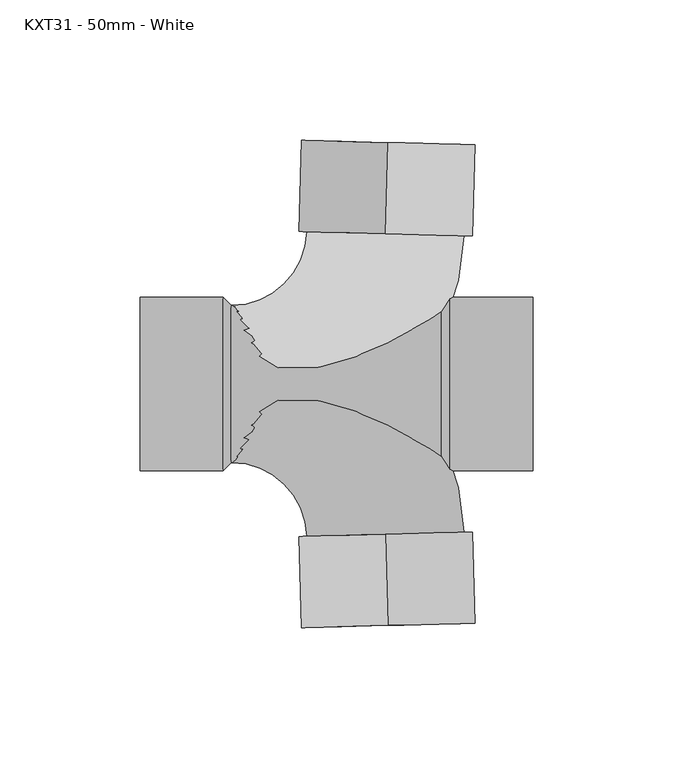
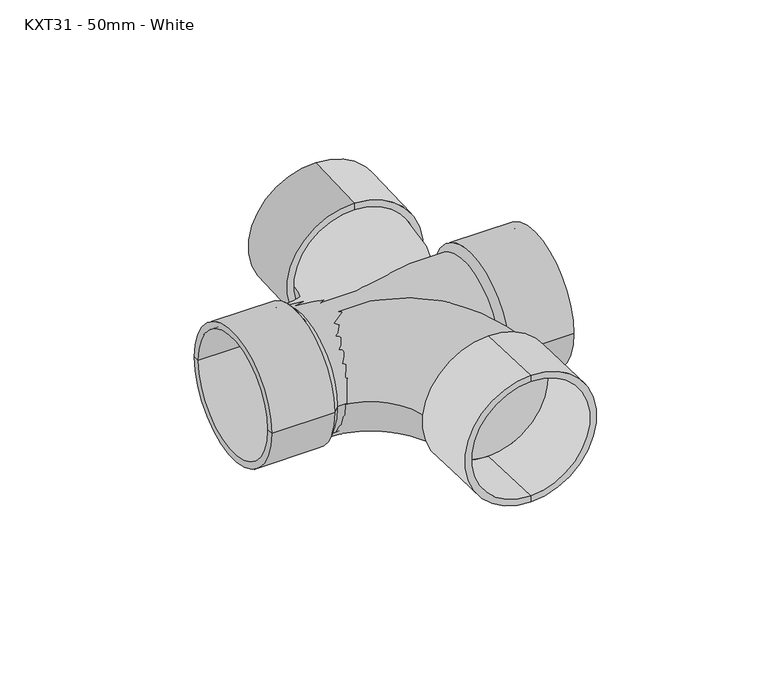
"""IFC4 building model written with IfcOpenShell, lengths in millimetres: pipe fitting geometry, MarleyPlumbingAndDrainage_PipeFitting_CrossTee88.5 : KXT31 - 50mm - White."""

from ifc_helpers import new_model, si_unit, point, frame, origin, place, context, project, spatial, polyline, circle_curve, ellipse_curve, trimmed, source, transform, mapped, element, save
from ifc_brep_helpers import plane_surface, cylinder_surface, revolved_surface, advanced_brep


def kxt31_50mm_white_24e1eb4b(model_context):
    return source(origin(), model_context, "Body", "AdvancedBrep", [
        advanced_brep(
        [(0.6864877, 86.0491309, -28.0), (0.6864877, 86.0491309, 28.0), (0.6864877, 86.0491309, 31.0), (0.6864877, 86.0491309, -31.0), (-0.1642631, 53.5602678, -28.0), (-0.1642631, 53.5602678, 28.0), (-0.1642631, 53.5602678, -31.0), (-0.1642631, 53.5602678, 31.0)],
        [
            (0, 1, circle_curve(frame((0.6864877, 86.0491309, 0.0), z_axis=(-0.02617694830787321, -0.9996573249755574, 0.0), x_axis=(0.0, 0.0, 1.0)), 28.0)),
            (1, 2),
            (2, 3, circle_curve(frame((0.6864877, 86.0491309, 0.0), z_axis=(0.02617694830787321, 0.9996573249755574, 0.0), x_axis=(0.0, 0.0, 1.0)), 31.0)),
            (3, 0),
            (1, 0, circle_curve(frame((0.6864877, 86.0491309, 0.0), z_axis=(-0.02617694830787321, -0.9996573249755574, 0.0), x_axis=(0.0, 0.0, 1.0)), 28.0)),
            (3, 2, circle_curve(frame((0.6864877, 86.0491309, 0.0), z_axis=(0.02617694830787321, 0.9996573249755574, 0.0), x_axis=(0.0, 0.0, 1.0)), 31.0)),
            (4, 5, circle_curve(frame((-0.1642631, 53.5602678, 0.0), z_axis=(-0.02617694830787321, -0.9996573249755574, 0.0), x_axis=(0.0, 0.0, 1.0)), 28.0)),
            (5, 1),
            (0, 4),
            (5, 4, circle_curve(frame((-0.1642631, 53.5602678, 0.0), z_axis=(-0.02617694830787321, -0.9996573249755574, 0.0), x_axis=(0.0, 0.0, 1.0)), 28.0)),
            (6, 7, circle_curve(frame((-0.1642631, 53.5602678, 0.0), z_axis=(-0.02617694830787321, -0.9996573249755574, 0.0), x_axis=(0.0, 0.0, 1.0)), 31.0)),
            (7, 5),
            (4, 6),
            (7, 6, circle_curve(frame((-0.1642631, 53.5602678, 0.0), z_axis=(-0.02617694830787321, -0.9996573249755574, 0.0), x_axis=(0.0, 0.0, 1.0)), 31.0)),
            (2, 7),
            (6, 3),
        ],
        [
            plane_surface(frame((0.6864877, 86.0491309, 0.0), z_axis=(0.02617694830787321, 0.9996573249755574, 0.0), x_axis=(0.0, 0.0, 1.0))),
            revolved_surface(polyline([(0.6864877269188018, 86.0491308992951, 28.0), (-0.16426309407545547, 53.56026779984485, 28.0)]), (1.6807678, 124.019155, 0.0), (0.02617694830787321, 0.9996573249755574, 0.0)),
            plane_surface(frame((-0.1642631, 53.5602678, 0.0), z_axis=(-0.02617694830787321, -0.9996573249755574, 0.0), x_axis=(0.0, 0.0, 1.0))),
            cylinder_surface(frame((1.6807678, 124.019155, 0.0), z_axis=(0.02617694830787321, 0.9996573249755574, 0.0), x_axis=(0.0, 0.0, 1.0)), 31.0),
        ],
        [
            (0, [[1, 2, 3, 4]]),
            (0, [[5, -4, 6, -2]]),
            (1, [[7, 8, -1, 9]]),
            (1, [[10, -9, -5, -8]]),
            (2, [[11, 12, -7, 13]]),
            (2, [[14, -13, -10, -12]]),
            (3, [[-3, 15, -11, 16]]),
            (3, [[-6, -16, -14, -15]]),
        ],
    ),
        advanced_brep(
        [(0.6864877, -86.0491309, -28.0), (0.6864877, -86.0491309, 28.0), (0.6864877, -86.0491309, 31.0), (0.6864877, -86.0491309, -31.0), (-0.1642631, -53.5602678, -28.0), (-0.1642631, -53.5602678, 28.0), (-0.1642631, -53.5602678, -31.0), (-0.1642631, -53.5602678, 31.0)],
        [
            (0, 1, circle_curve(frame((0.6864877, -86.0491309, 0.0), z_axis=(-0.02617694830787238, 0.9996573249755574, 0.0), x_axis=(0.0, 0.0, 1.0)), 28.0)),
            (1, 2),
            (2, 3, circle_curve(frame((0.6864877, -86.0491309, 0.0), z_axis=(0.02617694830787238, -0.9996573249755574, 0.0), x_axis=(0.0, 0.0, 1.0)), 31.0)),
            (3, 0),
            (1, 0, circle_curve(frame((0.6864877, -86.0491309, 0.0), z_axis=(-0.02617694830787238, 0.9996573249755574, 0.0), x_axis=(0.0, 0.0, 1.0)), 28.0)),
            (3, 2, circle_curve(frame((0.6864877, -86.0491309, 0.0), z_axis=(0.02617694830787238, -0.9996573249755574, 0.0), x_axis=(0.0, 0.0, 1.0)), 31.0)),
            (4, 5, circle_curve(frame((-0.1642631, -53.5602678, 0.0), z_axis=(-0.02617694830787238, 0.9996573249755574, 0.0), x_axis=(0.0, 0.0, 1.0)), 28.0)),
            (5, 1),
            (0, 4),
            (5, 4, circle_curve(frame((-0.1642631, -53.5602678, 0.0), z_axis=(-0.02617694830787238, 0.9996573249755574, 0.0), x_axis=(0.0, 0.0, 1.0)), 28.0)),
            (6, 7, circle_curve(frame((-0.1642631, -53.5602678, 0.0), z_axis=(-0.02617694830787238, 0.9996573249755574, 0.0), x_axis=(0.0, 0.0, 1.0)), 31.0)),
            (7, 5),
            (4, 6),
            (7, 6, circle_curve(frame((-0.1642631, -53.5602678, 0.0), z_axis=(-0.02617694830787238, 0.9996573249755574, 0.0), x_axis=(0.0, 0.0, 1.0)), 31.0)),
            (2, 7),
            (6, 3),
        ],
        [
            plane_surface(frame((0.6864877, -86.0491309, 0.0), z_axis=(0.02617694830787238, -0.9996573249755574, 0.0), x_axis=(0.0, 0.0, 1.0))),
            revolved_surface(polyline([(0.6864877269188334, -86.0491308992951, 28.0), (-0.16426309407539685, -53.56026779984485, 28.0)]), (1.6807678, -124.019155, 0.0), (0.02617694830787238, -0.9996573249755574, 0.0)),
            plane_surface(frame((-0.1642631, -53.5602678, 0.0), z_axis=(-0.02617694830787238, 0.9996573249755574, 0.0), x_axis=(0.0, 0.0, 1.0))),
            cylinder_surface(frame((1.6807678, -124.019155, 0.0), z_axis=(0.02617694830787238, -0.9996573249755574, 0.0), x_axis=(0.0, 0.0, 1.0)), 31.0),
        ],
        [
            (0, [[1, 2, 3, 4]]),
            (0, [[5, -4, 6, -2]]),
            (1, [[7, 8, -1, 9]]),
            (1, [[10, -9, -5, -8]]),
            (2, [[11, 12, -7, 13]]),
            (2, [[14, -13, -10, -12]]),
            (3, [[-3, 15, -11, 16]]),
            (3, [[-6, -16, -14, -15]]),
        ],
    ),
        advanced_brep(
        [(-87.645416, -28.0, 0.0), (-87.645416, 28.0, 0.0), (-87.645416, 31.0, 0.0), (-87.645416, -31.0, 0.0), (-58.145416, -28.0, 0.0), (-58.145416, 28.0, 0.0), (-58.145416, 0.0, 0.0), (22.854584, -28.0, 0.0), (22.854584, 28.0, 0.0), (22.854584, 0.0, 0.0), (52.354584, -28.0, 0.0), (52.354584, 28.0, 0.0), (52.354584, -31.0, 0.0), (52.354584, 31.0, 0.0), (22.854584, -31.0, 0.0), (22.854584, 31.0, 0.0), (19.854584, -28.0, 0.0), (19.854584, 28.0, 0.0), (-55.145416, -28.0, 0.0), (-55.145416, 28.0, 0.0), (-58.145416, -31.0, 0.0), (-58.145416, 31.0, 0.0)],
        [
            (0, 1, circle_curve(frame((-87.645416, 0.0, 0.0), z_axis=(1.0, 0.0, 0.0), x_axis=(0.0, 1.0, 0.0)), 28.0)),
            (1, 2),
            (2, 3, circle_curve(frame((-87.645416, 0.0, 0.0), z_axis=(-1.0, 0.0, 0.0), x_axis=(0.0, 1.0, 0.0)), 31.0)),
            (3, 0),
            (1, 0, circle_curve(frame((-87.645416, 0.0, 0.0), z_axis=(1.0, 0.0, 0.0), x_axis=(0.0, 1.0, 0.0)), 28.0)),
            (3, 2, circle_curve(frame((-87.645416, 0.0, 0.0), z_axis=(-1.0, 0.0, 0.0), x_axis=(0.0, 1.0, 0.0)), 31.0)),
            (4, 5, circle_curve(frame((-58.145416, 0.0, 0.0), z_axis=(1.0, 0.0, 0.0), x_axis=(0.0, 1.0, 0.0)), 28.0)),
            (5, 1),
            (0, 4),
            (5, 4, circle_curve(frame((-58.145416, 0.0, 0.0), z_axis=(1.0, 0.0, 0.0), x_axis=(0.0, 1.0, 0.0)), 28.0)),
            (6, 5),
            (4, 6),
            (7, 8, circle_curve(frame((22.854584, 0.0, 0.0), z_axis=(1.0, 0.0, 0.0), x_axis=(0.0, 1.0, 0.0)), 28.0)),
            (8, 9),
            (9, 7),
            (8, 7, circle_curve(frame((22.854584, 0.0, 0.0), z_axis=(1.0, 0.0, 0.0), x_axis=(0.0, 1.0, 0.0)), 28.0)),
            (10, 11, circle_curve(frame((52.354584, 0.0, 0.0), z_axis=(1.0, 0.0, 0.0), x_axis=(0.0, 1.0, 0.0)), 28.0)),
            (11, 8),
            (7, 10),
            (11, 10, circle_curve(frame((52.354584, 0.0, 0.0), z_axis=(1.0, 0.0, 0.0), x_axis=(0.0, 1.0, 0.0)), 28.0)),
            (12, 13, circle_curve(frame((52.354584, 0.0, 0.0), z_axis=(1.0, 0.0, 0.0), x_axis=(0.0, 1.0, 0.0)), 31.0)),
            (13, 11),
            (10, 12),
            (13, 12, circle_curve(frame((52.354584, 0.0, 0.0), z_axis=(1.0, 0.0, 0.0), x_axis=(0.0, 1.0, 0.0)), 31.0)),
            (14, 15, circle_curve(frame((22.854584, 0.0, 0.0), z_axis=(1.0, 0.0, 0.0), x_axis=(0.0, 1.0, 0.0)), 31.0)),
            (15, 13),
            (12, 14),
            (15, 14, circle_curve(frame((22.854584, 0.0, 0.0), z_axis=(1.0, 0.0, 0.0), x_axis=(0.0, 1.0, 0.0)), 31.0)),
            (16, 17, circle_curve(frame((19.854584, 0.0, 0.0), z_axis=(1.0, 0.0, 0.0), x_axis=(0.0, 1.0, 0.0)), 28.0)),
            (17, 15),
            (14, 16),
            (17, 16, circle_curve(frame((19.854584, 0.0, 0.0), z_axis=(1.0, 0.0, 0.0), x_axis=(0.0, 1.0, 0.0)), 28.0)),
            (18, 19, circle_curve(frame((-55.145416, 0.0, 0.0), z_axis=(1.0, 0.0, 0.0), x_axis=(0.0, 1.0, 0.0)), 28.0)),
            (19, 17),
            (16, 18),
            (19, 18, circle_curve(frame((-55.145416, 0.0, 0.0), z_axis=(1.0, 0.0, 0.0), x_axis=(0.0, 1.0, 0.0)), 28.0)),
            (20, 21, circle_curve(frame((-58.145416, 0.0, 0.0), z_axis=(1.0, 0.0, 0.0), x_axis=(0.0, 1.0, 0.0)), 31.0)),
            (21, 19),
            (18, 20),
            (21, 20, circle_curve(frame((-58.145416, 0.0, 0.0), z_axis=(1.0, 0.0, 0.0), x_axis=(0.0, 1.0, 0.0)), 31.0)),
            (2, 21),
            (20, 3),
        ],
        [
            plane_surface(frame((-87.645416, 0.0, 0.0), z_axis=(-1.0, 0.0, 0.0), x_axis=(0.0, 1.0, 0.0))),
            revolved_surface(polyline([(-87.64541599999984, 28.0, 0.0), (-58.14541600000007, 28.0, 0.0)]), (1983.9213721, 0.0, 0.0), (-1.0, 0.0, 0.0)),
            plane_surface(frame((-58.145416, 0.0, 0.0), z_axis=(-1.0, 0.0, 0.0), x_axis=(0.0, 1.0, 0.0))),
            plane_surface(frame((22.854584, 0.0, 0.0), z_axis=(1.0, 0.0, 0.0), x_axis=(0.0, 1.0, 0.0))),
            revolved_surface(polyline([(22.85458399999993, 28.0, 0.0), (52.35458399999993, 28.0, 0.0)]), (1983.9213721, 0.0, 0.0), (-1.0, 0.0, 0.0)),
            plane_surface(frame((52.354584, 0.0, 0.0), z_axis=(1.0, 0.0, 0.0), x_axis=(0.0, 1.0, 0.0))),
            cylinder_surface(frame((1983.9213721, 0.0, 0.0), z_axis=(-1.0, 0.0, 0.0), x_axis=(0.0, 1.0, 0.0)), 31.0),
            revolved_surface(polyline([(22.854584, 31.0, 0.0), (19.854584, 28.0, 0.0)]), (1983.9213721, 0.0, 0.0), (-1.0, 0.0, 0.0)),
            cylinder_surface(frame((1983.9213721, 0.0, 0.0), z_axis=(-1.0, 0.0, 0.0), x_axis=(0.0, 1.0, 0.0)), 28.0),
            revolved_surface(polyline([(-55.145416, 28.0, 0.0), (-58.145416, 31.0, 0.0)]), (1983.9213721, 0.0, 0.0), (-1.0, 0.0, 0.0)),
        ],
        [
            (0, [[1, 2, 3, 4]]),
            (0, [[5, -4, 6, -2]]),
            (1, [[7, 8, -1, 9]]),
            (1, [[10, -9, -5, -8]]),
            (2, [[11, -7, 12]]),
            (2, [[-12, -10, -11]]),
            (3, [[13, 14, 15]]),
            (3, [[16, -15, -14]]),
            (4, [[17, 18, -13, 19]]),
            (4, [[20, -19, -16, -18]]),
            (5, [[21, 22, -17, 23]]),
            (5, [[24, -23, -20, -22]]),
            (6, [[25, 26, -21, 27]]),
            (6, [[28, -27, -24, -26]]),
            (7, [[29, 30, -25, 31]]),
            (7, [[32, -31, -28, -30]]),
            (8, [[33, 34, -29, 35]]),
            (8, [[36, -35, -32, -34]]),
            (9, [[37, 38, -33, 39]]),
            (9, [[40, -39, -36, -38]]),
            (6, [[-3, 41, -37, 42]]),
            (6, [[-6, -42, -40, -41]]),
        ],
    ),
        advanced_brep(
        [(-55.145416, -28.0, 0.0), (-55.145416, 28.0, 0.0), (-28.1546682, -54.2932224, 0.0), (27.826142, -52.8273133, 0.0)],
        [
            (0, 1, circle_curve(frame((-55.145416, 0.0, 0.0), z_axis=(-1.0, 0.0, 0.0), x_axis=(0.0, 1.0, 0.0)), 28.0)),
            (1, 0, circle_curve(frame((-55.145416, 0.0, 0.0), z_axis=(-1.0, 0.0, 0.0), x_axis=(0.0, 1.0, 0.0)), 28.0)),
            (2, 3, circle_curve(frame((-0.1642631, -53.5602678, 0.0), z_axis=(0.026176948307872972, -0.9996573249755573, 0.0), x_axis=(0.9996573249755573, 0.026176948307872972, 0.0)), 28.0)),
            (3, 2, circle_curve(frame((-0.1642631, -53.5602678, 0.0), z_axis=(0.026176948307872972, -0.9996573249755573, 0.0), x_axis=(0.9996573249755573, 0.026176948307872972, 0.0)), 28.0)),
            (3, 1, circle_curve(frame((-55.145416, -55.0, 0.0), z_axis=(0.0, 0.0, 1.0), x_axis=(0.0, 1.0, 0.0)), 83.0)),
            (0, 2, circle_curve(frame((-55.145416, -55.0, 0.0), z_axis=(0.0, 0.0, -1.0), x_axis=(0.0, 1.0, 0.0)), 27.0)),
        ],
        [
            plane_surface(frame((-55.145416, 0.0, 0.0), z_axis=(-1.0, 0.0, 0.0), x_axis=(0.0, 0.0, 1.0))),
            plane_surface(frame((-0.1642631, -53.5602678, 0.0), z_axis=(0.0261769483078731, -0.9996573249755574, 0.0), x_axis=(0.0, 0.0, 1.0))),
            revolved_surface(trimmed(ellipse_curve(frame((-55.145416, 0.0, 0.0), z_axis=(-1.0, 0.0, 0.0), x_axis=(0.0, 1.0, 0.0)), 28.0, 28.0), [point((-55.145416, -28.0, 0.0))], [point((-55.145416, 28.0, 0.0))], True, "CARTESIAN"), (-55.145416, -55.0, 0.0), (0.0, 0.0, -1.0)),
            revolved_surface(trimmed(ellipse_curve(frame((-55.145416, 0.0, 0.0), z_axis=(-1.0, 0.0, 0.0), x_axis=(0.0, 1.0, 0.0)), 28.0, 28.0), [point((-55.145416, 28.0, 0.0))], [point((-55.145416, -28.0, 0.0))], True, "CARTESIAN"), (-55.145416, -55.0, 0.0), (0.0, 0.0, -1.0)),
        ],
        [
            (0, [[1, 2]]),
            (1, [[3, 4]]),
            (2, [[5, -1, 6, -4]]),
            (3, [[-6, -2, -5, -3]]),
        ],
    ),
        advanced_brep(
        [(-55.145416, -28.0, 0.0), (-55.145416, 28.0, 0.0), (27.826142, 52.8273133, 0.0), (-28.1546682, 54.2932224, 0.0)],
        [
            (0, 1, circle_curve(frame((-55.145416, 0.0, 0.0), z_axis=(-1.0, 0.0, 0.0), x_axis=(0.0, 1.0, 0.0)), 28.0)),
            (1, 0, circle_curve(frame((-55.145416, 0.0, 0.0), z_axis=(-1.0, 0.0, 0.0), x_axis=(0.0, 1.0, 0.0)), 28.0)),
            (2, 3, circle_curve(frame((-0.1642631, 53.5602678, 0.0), z_axis=(0.026176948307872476, 0.9996573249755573, 0.0), x_axis=(-0.9996573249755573, 0.026176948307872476, 0.0)), 28.0)),
            (3, 2, circle_curve(frame((-0.1642631, 53.5602678, 0.0), z_axis=(0.026176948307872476, 0.9996573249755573, 0.0), x_axis=(-0.9996573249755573, 0.026176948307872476, 0.0)), 28.0)),
            (3, 1, circle_curve(frame((-55.145416, 55.0, 0.0), z_axis=(0.0, 0.0, -1.0), x_axis=(0.0, -1.0, 0.0)), 27.0)),
            (0, 2, circle_curve(frame((-55.145416, 55.0, 0.0), z_axis=(0.0, 0.0, 1.0), x_axis=(0.0, -1.0, 0.0)), 83.0)),
        ],
        [
            plane_surface(frame((-55.145416, 0.0, 0.0), z_axis=(-1.0, 0.0, 0.0), x_axis=(0.0, 0.0, 1.0))),
            plane_surface(frame((-0.1642631, 53.5602678, 0.0), z_axis=(0.02617694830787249, 0.9996573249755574, 0.0), x_axis=(0.0, 0.0, 1.0))),
            revolved_surface(trimmed(ellipse_curve(frame((-55.145416, 0.0, 0.0), z_axis=(-1.0, 0.0, 0.0), x_axis=(0.0, 1.0, 0.0)), 28.0, 28.0), [point((-55.145416, -28.0, 0.0))], [point((-55.145416, 28.0, 0.0))], True, "CARTESIAN"), (-55.145416, 55.0, 0.0), (0.0, 0.0, 1.0)),
            revolved_surface(trimmed(ellipse_curve(frame((-55.145416, 0.0, 0.0), z_axis=(-1.0, 0.0, 0.0), x_axis=(0.0, 1.0, 0.0)), 28.0, 28.0), [point((-55.145416, 28.0, 0.0))], [point((-55.145416, -28.0, 0.0))], True, "CARTESIAN"), (-55.145416, 55.0, 0.0), (0.0, 0.0, 1.0)),
        ],
        [
            (0, [[1, 2]]),
            (1, [[3, 4]]),
            (2, [[5, -1, 6, -4]]),
            (3, [[-6, -2, -5, -3]]),
        ],
    ),
    ])


if __name__ == "__main__":
    model = new_model("IFC4")
    model_context = context("Model", 3, world=origin())
    ifc_project = project(units=[si_unit("LENGTHUNIT", "METRE", prefix="MILLI")], contexts=[model_context])
    site = spatial("IfcSite", under=ifc_project)
    building = spatial("IfcBuilding", under=site)
    placement = place(None, origin())
    kxt31_50mm_white_shape = kxt31_50mm_white_24e1eb4b(model_context)
    element("IfcPipeFitting", 1, ObjectType="MarleyPlumbingAndDrainage_PipeFitting_CrossTee88.5 : KXT31 - 50mm - White", at=placement, inside=building, context=model_context, shape_type="MappedRepresentation", body=[
        mapped(kxt31_50mm_white_shape, transform((0.0, 0.0, 0.0), x_axis=(1.0, 0.0, 0.0), y_axis=(0.0, 1.0, 0.0), z_axis=(0.0, 0.0, 1.0))),
    ])
    save(model, "model.ifc")
